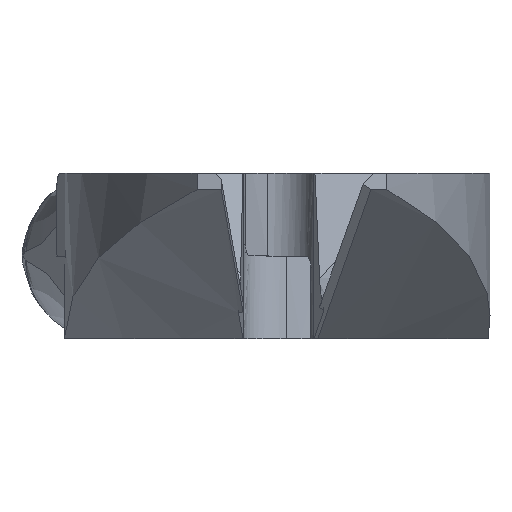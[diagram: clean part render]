
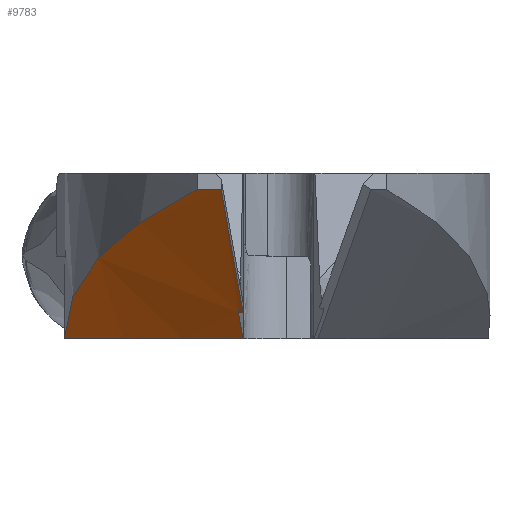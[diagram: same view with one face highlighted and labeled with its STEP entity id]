
A CAD part, left-side view. The second image highlights one B-rep face of the part: STEP entity #9783.
In plain terms, the highlighted cylindrical face has radius 45 mm (diameter 90 mm), a partial arc.
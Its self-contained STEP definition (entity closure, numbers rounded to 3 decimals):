
#523 = CARTESIAN_POINT ( 'NONE',  ( -10.499, 0.2, 0. ) ) ;
#652 =( BOUNDED_CURVE ( )  B_SPLINE_CURVE ( 3, ( #7922, #1394, #2276, #7956 ),
 .UNSPECIFIED., .F., .T. ) 
 B_SPLINE_CURVE_WITH_KNOTS ( ( 4, 4 ),
 ( 0.004, 0.177 ),
 .UNSPECIFIED. ) 
 CURVE ( )  GEOMETRIC_REPRESENTATION_ITEM ( )  RATIONAL_B_SPLINE_CURVE ( ( 1., 0.998, 0.998, 1. ) ) 
 REPRESENTATION_ITEM ( '' )  );
#672 = CARTESIAN_POINT ( 'NONE',  ( -12.892, 0.066, 1.115 ) ) ;
#751 = CARTESIAN_POINT ( 'NONE',  ( -18.207, 5.19, 3.924 ) ) ;
#923 = CARTESIAN_POINT ( 'NONE',  ( -24., 1.018, 6.308 ) ) ;
#1349 = ORIENTED_EDGE ( 'NONE', *, *, #6605, .T. ) ;
#1394 = CARTESIAN_POINT ( 'NONE',  ( -10.472, 2.785, 0. ) ) ;
#1568 = CARTESIAN_POINT ( 'NONE',  ( -20.061, 4.123, 4.665 ) ) ;
#1704 = ORIENTED_EDGE ( 'NONE', *, *, #10456, .T. ) ;
#2015 = VERTEX_POINT ( 'NONE', #6808 ) ;
#2131 = CARTESIAN_POINT ( 'NONE',  ( -20.297, 0., 4.569 ) ) ;
#2247 = CYLINDRICAL_SURFACE ( 'NONE', #2969, 45. ) ;
#2276 = CARTESIAN_POINT ( 'NONE',  ( -9.919, 5.36, 0. ) ) ;
#2337 = CARTESIAN_POINT ( 'NONE',  ( -24., 0., 6.295 ) ) ;
#2390 = CARTESIAN_POINT ( 'NONE',  ( -22.954, 2.024, 5.845 ) ) ;
#2742 = VECTOR ( 'NONE', #3555, 1000. ) ;
#2913 = CARTESIAN_POINT ( 'NONE',  ( -12.892, 0.2, 1.116 ) ) ;
#2917 = CARTESIAN_POINT ( 'NONE',  ( -16.595, 0., 2.842 ) ) ;
#2969 = AXIS2_PLACEMENT_3D ( 'NONE', #3205, #4833, #5660 ) ;
#2971 = LINE ( 'NONE', #10190, #2742 ) ;
#3001 =( BOUNDED_CURVE ( )  B_SPLINE_CURVE ( 3, ( #7839, #4723, #672, #6364 ),
 .UNSPECIFIED., .F., .T. ) 
 B_SPLINE_CURVE_WITH_KNOTS ( ( 4, 4 ),
 ( 3.137, 3.142 ),
 .UNSPECIFIED. ) 
 CURVE ( )  GEOMETRIC_REPRESENTATION_ITEM ( )  RATIONAL_B_SPLINE_CURVE ( ( 1., 1., 1., 1. ) ) 
 REPRESENTATION_ITEM ( '' )  );
#3105 = CARTESIAN_POINT ( 'NONE',  ( -10.229, 7.784, 0.622 ) ) ;
#3205 = CARTESIAN_POINT ( 'NONE',  ( 9.967, 0., 40.108 ) ) ;
#3257 = EDGE_CURVE ( 'NONE', #8869, #10349, #2971, .T. ) ;
#3555 = DIRECTION ( 'NONE',  ( -0.906, 0., 0.423 ) ) ;
#3864 = EDGE_CURVE ( 'NONE', #5280, #6883, #9043, .T. ) ;
#3971 = B_SPLINE_CURVE_WITH_KNOTS ( 'NONE', 3,
 ( #6124, #2917, #2131, #7804 ),
 .UNSPECIFIED., .F., .F.,
 ( 4, 4 ),
 ( 0., 1. ),
 .UNSPECIFIED. ) ;
#4152 = CARTESIAN_POINT ( 'NONE',  ( -24., 0., 6.295 ) ) ;
#4160 = CARTESIAN_POINT ( 'NONE',  ( -24., 0.339, 6.295 ) ) ;
#4194 = CARTESIAN_POINT ( 'NONE',  ( -8.844, 7.905, 0. ) ) ;
#4723 = CARTESIAN_POINT ( 'NONE',  ( -12.892, 0.133, 1.116 ) ) ;
#4803 = CARTESIAN_POINT ( 'NONE',  ( -14.288, 6.852, 2.344 ) ) ;
#4833 = DIRECTION ( 'NONE',  ( -0.906, 0., 0.423 ) ) ;
#5003 = ORIENTED_EDGE ( 'NONE', *, *, #8810, .T. ) ;
#5280 = VERTEX_POINT ( 'NONE', #4194 ) ;
#5626 = CARTESIAN_POINT ( 'NONE',  ( -17.566, 5.512, 3.668 ) ) ;
#5660 = DIRECTION ( 'NONE',  ( 0.423, 0., 0.906 ) ) ;
#5766 = ORIENTED_EDGE ( 'NONE', *, *, #3864, .F. ) ;
#5806 = CARTESIAN_POINT ( 'NONE',  ( -24., 0.679, 6.299 ) ) ;
#5952 = VERTEX_POINT ( 'NONE', #4152 ) ;
#6124 = CARTESIAN_POINT ( 'NONE',  ( -12.892, 0., 1.115 ) ) ;
#6364 = CARTESIAN_POINT ( 'NONE',  ( -12.892, 0., 1.115 ) ) ;
#6441 = CARTESIAN_POINT ( 'NONE',  ( -19.454, 4.496, 4.422 ) ) ;
#6523 = EDGE_CURVE ( 'NONE', #8869, #5280, #652, .T. ) ;
#6566 = FACE_OUTER_BOUND ( 'NONE', #10102, .T. ) ;
#6605 = EDGE_CURVE ( 'NONE', #5952, #6883, #9556, .T. ) ;
#6808 = CARTESIAN_POINT ( 'NONE',  ( -12.892, 0., 1.115 ) ) ;
#6820 = ORIENTED_EDGE ( 'NONE', *, *, #6523, .F. ) ;
#6883 = VERTEX_POINT ( 'NONE', #10205 ) ;
#7253 = CARTESIAN_POINT ( 'NONE',  ( -21.836, 2.926, 5.383 ) ) ;
#7804 = CARTESIAN_POINT ( 'NONE',  ( -24., 0., 6.295 ) ) ;
#7839 = CARTESIAN_POINT ( 'NONE',  ( -12.892, 0.2, 1.116 ) ) ;
#7922 = CARTESIAN_POINT ( 'NONE',  ( -10.499, 0.2, 0. ) ) ;
#7956 = CARTESIAN_POINT ( 'NONE',  ( -8.844, 7.905, 0. ) ) ;
#8069 = CARTESIAN_POINT ( 'NONE',  ( -24., 1.018, 6.308 ) ) ;
#8810 = EDGE_CURVE ( 'NONE', #2015, #5952, #3971, .T. ) ;
#8869 = VERTEX_POINT ( 'NONE', #523 ) ;
#9043 = B_SPLINE_CURVE_WITH_KNOTS ( 'NONE', 3,
 ( #9660, #3105, #10441, #4803, #10483, #5626, #751, #6441, #1568, #7253, #2390, #8069 ),
 .UNSPECIFIED., .F., .F.,
 ( 4, 2, 2, 2, 2, 4 ),
 ( 0., 0.005, 0.009, 0.011, 0.014, 0.018 ),
 .UNSPECIFIED. ) ;
#9556 = B_SPLINE_CURVE_WITH_KNOTS ( 'NONE', 3,
 ( #2337, #4160, #5806, #923 ),
 .UNSPECIFIED., .F., .F.,
 ( 4, 4 ),
 ( 0., 1. ),
 .UNSPECIFIED. ) ;
#9660 = CARTESIAN_POINT ( 'NONE',  ( -8.844, 7.905, 0. ) ) ;
#9783 = ADVANCED_FACE ( 'NONE', ( #6566 ), #2247, .T. ) ;
#10102 = EDGE_LOOP ( 'NONE', ( #5766, #6820, #10106, #1704, #5003, #1349 ) ) ;
#10106 = ORIENTED_EDGE ( 'NONE', *, *, #3257, .T. ) ;
#10190 = CARTESIAN_POINT ( 'NONE',  ( -16.572, 0.2, 2.832 ) ) ;
#10205 = CARTESIAN_POINT ( 'NONE',  ( -24., 1.018, 6.308 ) ) ;
#10349 = VERTEX_POINT ( 'NONE', #2913 ) ;
#10441 = CARTESIAN_POINT ( 'NONE',  ( -11.595, 7.549, 1.213 ) ) ;
#10456 = EDGE_CURVE ( 'NONE', #10349, #2015, #3001, .T. ) ;
#10483 = CARTESIAN_POINT ( 'NONE',  ( -15.615, 6.389, 2.884 ) ) ;
